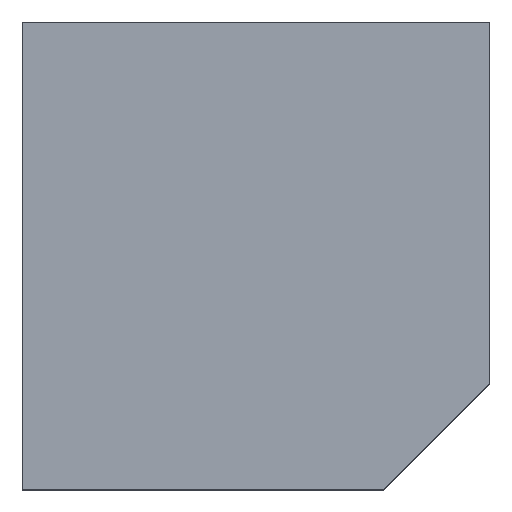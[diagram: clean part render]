
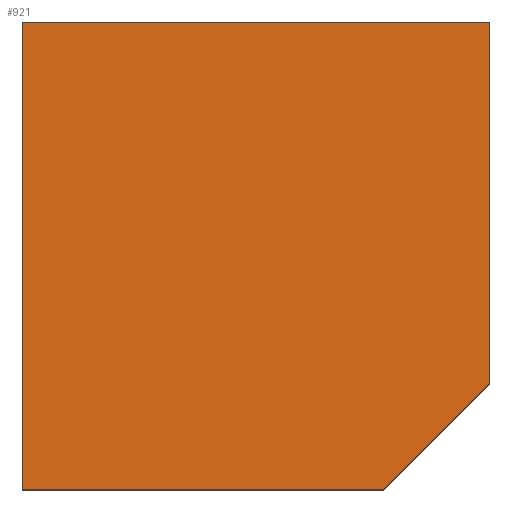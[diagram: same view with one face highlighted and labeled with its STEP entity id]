
A CAD part, top view. The second image highlights one B-rep face of the part: STEP entity #921.
In plain terms, the highlighted planar face has unit normal (0, 0, 1).
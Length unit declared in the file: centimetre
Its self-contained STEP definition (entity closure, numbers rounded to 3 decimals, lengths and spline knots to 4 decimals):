
#24 = VERTEX_POINT ( 'NONE', #845 ) ;
#26 = CARTESIAN_POINT ( 'NONE',  ( 1000., 227.1241, 1000. ) ) ;
#28 = CARTESIAN_POINT ( 'NONE',  ( 0., 1000., 1000. ) ) ;
#47 = LINE ( 'NONE', #556, #170 ) ;
#74 = DIRECTION ( 'NONE',  ( 1., 0., 0. ) ) ;
#81 = VERTEX_POINT ( 'NONE', #437 ) ;
#153 = VECTOR ( 'NONE', #386, 100. ) ;
#161 = CARTESIAN_POINT ( 'NONE',  ( 0., 0., 1000. ) ) ;
#167 = PLANE ( 'NONE',  #417 ) ;
#170 = VECTOR ( 'NONE', #856, 100. ) ;
#192 = EDGE_CURVE ( 'NONE', #81, #416, #47, .T. ) ;
#195 = EDGE_CURVE ( 'NONE', #416, #410, #627, .T. ) ;
#217 = CARTESIAN_POINT ( 'NONE',  ( 0., 1000., 1000. ) ) ;
#297 = EDGE_CURVE ( 'NONE', #24, #611, #803, .T. ) ;
#324 = DIRECTION ( 'NONE',  ( 0., -1., 0. ) ) ;
#371 = FACE_OUTER_BOUND ( 'NONE', #536, .T. ) ;
#374 = CARTESIAN_POINT ( 'NONE',  ( 1000., 1000., 1000. ) ) ;
#386 = DIRECTION ( 'NONE',  ( 0., 1., 0. ) ) ;
#410 = VERTEX_POINT ( 'NONE', #26 ) ;
#416 = VERTEX_POINT ( 'NONE', #750 ) ;
#417 = AXIS2_PLACEMENT_3D ( 'NONE', #161, #448, #74 ) ;
#437 = CARTESIAN_POINT ( 'NONE',  ( 0., 0., 1000. ) ) ;
#441 = LINE ( 'NONE', #374, #153 ) ;
#446 = DIRECTION ( 'NONE',  ( -1., 0., 0. ) ) ;
#448 = DIRECTION ( 'NONE',  ( 0., 0., 1. ) ) ;
#465 = VECTOR ( 'NONE', #848, 100. ) ;
#479 = EDGE_CURVE ( 'NONE', #611, #81, #671, .T. ) ;
#536 = EDGE_LOOP ( 'NONE', ( #832, #598, #761, #543, #708 ) ) ;
#543 = ORIENTED_EDGE ( 'NONE', *, *, #297, .T. ) ;
#556 = CARTESIAN_POINT ( 'NONE',  ( 0., 0., 1000. ) ) ;
#598 = ORIENTED_EDGE ( 'NONE', *, *, #195, .T. ) ;
#611 = VERTEX_POINT ( 'NONE', #217 ) ;
#619 = VECTOR ( 'NONE', #446, 100. ) ;
#627 = LINE ( 'NONE', #911, #465 ) ;
#671 = LINE ( 'NONE', #28, #733 ) ;
#708 = ORIENTED_EDGE ( 'NONE', *, *, #479, .T. ) ;
#733 = VECTOR ( 'NONE', #324, 100. ) ;
#750 = CARTESIAN_POINT ( 'NONE',  ( 772.8759, 0., 1000. ) ) ;
#761 = ORIENTED_EDGE ( 'NONE', *, *, #815, .T. ) ;
#803 = LINE ( 'NONE', #806, #619 ) ;
#806 = CARTESIAN_POINT ( 'NONE',  ( 0., 1000., 1000. ) ) ;
#815 = EDGE_CURVE ( 'NONE', #410, #24, #441, .T. ) ;
#832 = ORIENTED_EDGE ( 'NONE', *, *, #192, .T. ) ;
#845 = CARTESIAN_POINT ( 'NONE',  ( 1000., 1000., 1000. ) ) ;
#848 = DIRECTION ( 'NONE',  ( 0.707, 0.707, 0. ) ) ;
#856 = DIRECTION ( 'NONE',  ( 1., 0., 0. ) ) ;
#911 = CARTESIAN_POINT ( 'NONE',  ( 386.4379, -386.4379, 1000. ) ) ;
#921 = ADVANCED_FACE ( 'NONE', ( #371 ), #167, .T. ) ;
